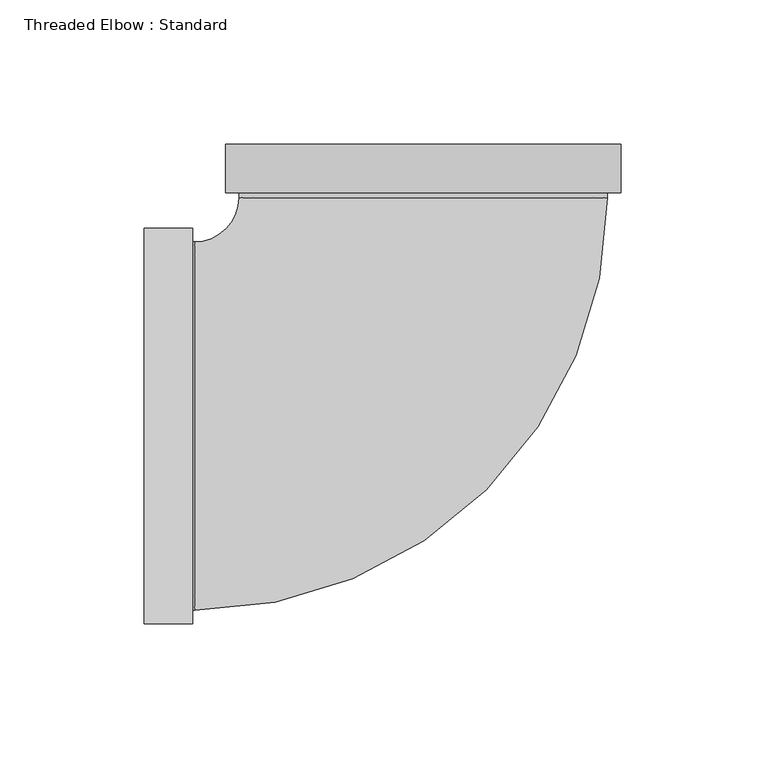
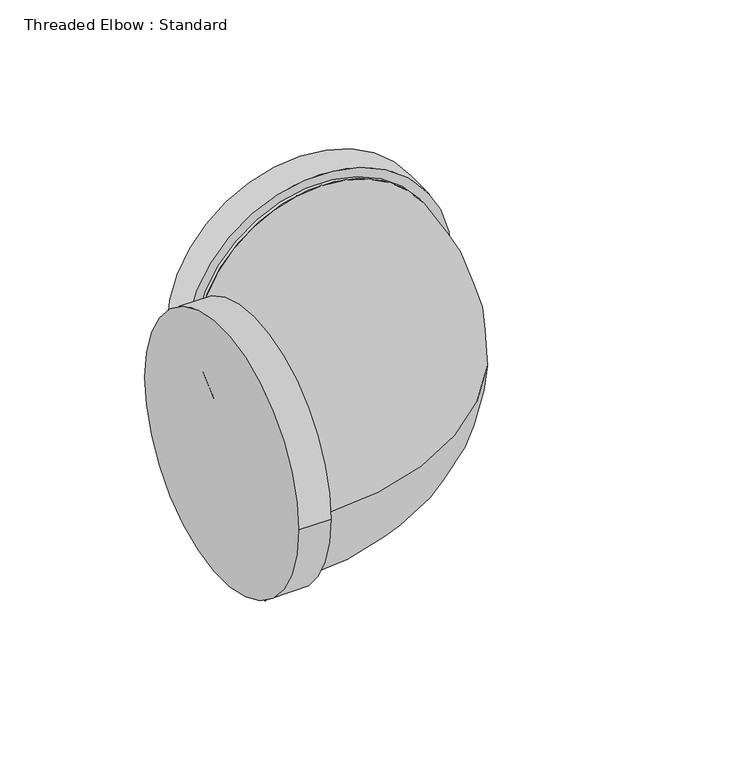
"""IFC4 building model written with IfcOpenShell, lengths in millimetres: pipe fitting geometry, Threaded Elbow : Standard."""

from ifc_helpers import new_model, si_unit, point, frame, origin, place, context, project, spatial, circle_curve, ellipse_curve, trimmed, source, transform, mapped, element, save
from ifc_brep_helpers import plane_surface, cylinder_surface, revolved_surface, advanced_brep


def threaded_elbow_standard_6d9bc947(model_context):
    return source(origin(), model_context, "Body", "AdvancedBrep", [
        advanced_brep(
        [(68.6, 81.0733437, 0.0), (-68.6, 81.0733437, 0.0), (-63.93, 81.0733437, 0.0), (63.93, 81.0733437, 0.0), (68.6, 97.8733437, 0.0), (-68.6, 97.8733437, 0.0), (63.93, 79.3151875, 0.0), (-63.93, 79.3151875, 0.0)],
        [
            (0, 1, circle_curve(frame((0.0, 81.0733437, 0.0), z_axis=(0.0, -1.0, 0.0), x_axis=(-1.0, 0.0, 0.0)), 68.6)),
            (1, 0, circle_curve(frame((0.0, 81.0733437, 0.0), z_axis=(0.0, -1.0, 0.0), x_axis=(-1.0, 0.0, 0.0)), 68.6)),
            (2, 3, circle_curve(frame((0.0, 81.0733437, 0.0), z_axis=(0.0, 1.0, 0.0), x_axis=(-1.0, 0.0, 0.0)), 63.93)),
            (3, 2, circle_curve(frame((0.0, 81.0733437, 0.0), z_axis=(0.0, 1.0, 0.0), x_axis=(-1.0, 0.0, 0.0)), 63.93)),
            (4, 5, circle_curve(frame((0.0, 97.8733437, 0.0), z_axis=(0.0, 1.0, 0.0), x_axis=(-1.0, 0.0, 0.0)), 68.6)),
            (5, 4, circle_curve(frame((0.0, 97.8733437, 0.0), z_axis=(0.0, 1.0, 0.0), x_axis=(-1.0, 0.0, 0.0)), 68.6)),
            (0, 4),
            (5, 1),
            (6, 7, circle_curve(frame((0.0, 79.3151875, 0.0), z_axis=(0.0, -1.0, 0.0), x_axis=(-1.0, 0.0, 0.0)), 63.93)),
            (7, 6, circle_curve(frame((0.0, 79.3151875, 0.0), z_axis=(0.0, -1.0, 0.0), x_axis=(-1.0, 0.0, 0.0)), 63.93)),
            (6, 3),
            (2, 7),
        ],
        [
            plane_surface(frame((0.0, 81.0733437, 0.0), z_axis=(0.0, -1.0, 0.0), x_axis=(0.0, 0.0, 1.0))),
            plane_surface(frame((0.0, 97.8733437, 0.0), z_axis=(0.0, 1.0, 0.0), x_axis=(0.0, 0.0, 1.0))),
            cylinder_surface(frame((0.0, 81.0733437, 0.0), z_axis=(0.0, -1.0, 0.0), x_axis=(-1.0, 0.0, 0.0)), 68.6),
            plane_surface(frame((0.0, 79.3151875, 0.0), z_axis=(0.0, -1.0, 0.0), x_axis=(0.0, 0.0, 1.0))),
            cylinder_surface(frame((0.0, 79.3151875, 0.0), z_axis=(0.0, -1.0, 0.0), x_axis=(-1.0, 0.0, 0.0)), 63.93),
        ],
        [
            (0, [[1, 2], [3, 4]]),
            (1, [[5, 6]]),
            (2, [[-1, 7, -6, 8]]),
            (2, [[-2, -8, -5, -7]]),
            (3, [[9, 10]]),
            (4, [[-9, 11, -3, 12]]),
            (4, [[-10, -12, -4, -11]]),
        ],
    ),
        advanced_brep(
        [(-80.1089375, 68.6, 0.0), (-80.1089375, -68.6, 0.0), (-80.1089375, -63.93, 0.0), (-80.1089375, 63.93, 0.0), (-96.9089375, 68.6, 0.0), (-96.9089375, -68.6, 0.0), (-79.3151875, 63.93, 0.0), (-79.3151875, -63.93, 0.0)],
        [
            (0, 1, circle_curve(frame((-80.1089375, 0.0, 0.0), z_axis=(1.0, 0.0, 0.0), x_axis=(0.0, -1.0, 0.0)), 68.6)),
            (1, 0, circle_curve(frame((-80.1089375, 0.0, 0.0), z_axis=(1.0, 0.0, 0.0), x_axis=(0.0, -1.0, 0.0)), 68.6)),
            (2, 3, circle_curve(frame((-80.1089375, 0.0, 0.0), z_axis=(-1.0, 0.0, 0.0), x_axis=(0.0, -1.0, 0.0)), 63.93)),
            (3, 2, circle_curve(frame((-80.1089375, 0.0, 0.0), z_axis=(-1.0, 0.0, 0.0), x_axis=(0.0, -1.0, 0.0)), 63.93)),
            (4, 5, circle_curve(frame((-96.9089375, 0.0, 0.0), z_axis=(-1.0, 0.0, 0.0), x_axis=(0.0, -1.0, 0.0)), 68.6)),
            (5, 4, circle_curve(frame((-96.9089375, 0.0, 0.0), z_axis=(-1.0, 0.0, 0.0), x_axis=(0.0, -1.0, 0.0)), 68.6)),
            (0, 4),
            (5, 1),
            (6, 7, circle_curve(frame((-79.3151875, 0.0, 0.0), z_axis=(1.0, 0.0, 0.0), x_axis=(0.0, -1.0, 0.0)), 63.93)),
            (7, 6, circle_curve(frame((-79.3151875, 0.0, 0.0), z_axis=(1.0, 0.0, 0.0), x_axis=(0.0, -1.0, 0.0)), 63.93)),
            (6, 3),
            (2, 7),
        ],
        [
            plane_surface(frame((-80.1089375, 0.0, 0.0), z_axis=(1.0, 0.0, 0.0), x_axis=(0.0, 0.0, 1.0))),
            plane_surface(frame((-96.9089375, 0.0, 0.0), z_axis=(-1.0, 0.0, 0.0), x_axis=(0.0, 0.0, 1.0))),
            cylinder_surface(frame((-80.1089375, 0.0, 0.0), z_axis=(1.0, 0.0, 0.0), x_axis=(0.0, -1.0, 0.0)), 68.6),
            plane_surface(frame((-79.3151875, 0.0, 0.0), z_axis=(1.0, 0.0, 0.0), x_axis=(0.0, 0.0, 1.0))),
            cylinder_surface(frame((-79.3151875, 0.0, 0.0), z_axis=(1.0, 0.0, 0.0), x_axis=(0.0, -1.0, 0.0)), 63.93),
        ],
        [
            (0, [[1, 2], [3, 4]]),
            (1, [[5, 6]]),
            (2, [[-1, 7, -6, 8]]),
            (2, [[-2, -8, -5, -7]]),
            (3, [[9, 10]]),
            (4, [[-9, 11, -3, 12]]),
            (4, [[-10, -12, -4, -11]]),
        ],
    ),
        advanced_brep(
        [(-68.6, 97.8733437, 0.0), (68.6, 97.8733437, 0.0), (-68.6, 81.0733437, 0.0), (68.6, 81.0733437, 0.0), (-63.93, 81.0733437, 0.0), (63.93, 81.0733437, 0.0), (63.93, 79.3151875, 0.0), (-63.93, 79.3151875, 0.0)],
        [
            (0, 1, circle_curve(frame((0.0, 97.8733437, 0.0), z_axis=(0.0, 1.0, 0.0), x_axis=(1.0, 0.0, 0.0)), 68.6)),
            (1, 0, circle_curve(frame((0.0, 97.8733437, 0.0), z_axis=(0.0, 1.0, 0.0), x_axis=(1.0, 0.0, 0.0)), 68.6)),
            (2, 3, circle_curve(frame((0.0, 81.0733437, 0.0), z_axis=(0.0, -1.0, 0.0), x_axis=(1.0, 0.0, 0.0)), 68.6)),
            (3, 2, circle_curve(frame((0.0, 81.0733437, 0.0), z_axis=(0.0, -1.0, 0.0), x_axis=(1.0, 0.0, 0.0)), 68.6)),
            (4, 5, circle_curve(frame((0.0, 81.0733437, 0.0), z_axis=(0.0, 1.0, 0.0), x_axis=(-1.0, 0.0, 0.0)), 63.93)),
            (5, 4, circle_curve(frame((0.0, 81.0733437, 0.0), z_axis=(0.0, 1.0, 0.0), x_axis=(-1.0, 0.0, 0.0)), 63.93)),
            (0, 2),
            (3, 1),
            (6, 7, circle_curve(frame((0.0, 79.3151875, 0.0), z_axis=(0.0, -1.0, 0.0), x_axis=(-1.0, 0.0, 0.0)), 63.93)),
            (7, 6, circle_curve(frame((0.0, 79.3151875, 0.0), z_axis=(0.0, -1.0, 0.0), x_axis=(-1.0, 0.0, 0.0)), 63.93)),
            (6, 5),
            (4, 7),
        ],
        [
            plane_surface(frame((0.0, 97.8733437, 0.0), z_axis=(0.0, 1.0, 0.0), x_axis=(0.0, 0.0, 1.0))),
            plane_surface(frame((0.0, 81.0733437, 0.0), z_axis=(0.0, -1.0, 0.0), x_axis=(0.0, 0.0, 1.0))),
            cylinder_surface(frame((0.0, 97.8733437, 0.0), z_axis=(0.0, 1.0, 0.0), x_axis=(1.0, 0.0, 0.0)), 68.6),
            plane_surface(frame((0.0, 79.3151875, 0.0), z_axis=(0.0, -1.0, 0.0), x_axis=(0.0, 0.0, 1.0))),
            cylinder_surface(frame((0.0, 79.3151875, 0.0), z_axis=(0.0, -1.0, 0.0), x_axis=(-1.0, 0.0, 0.0)), 63.93),
        ],
        [
            (0, [[1, 2]]),
            (1, [[3, 4], [5, 6]]),
            (2, [[-1, 7, -4, 8]]),
            (2, [[-2, -8, -3, -7]]),
            (3, [[9, 10]]),
            (4, [[-9, 11, -5, 12]]),
            (4, [[-10, -12, -6, -11]]),
        ],
    ),
        advanced_brep(
        [(-80.1089375, -68.6, 0.0), (-80.1089375, 68.6, 0.0), (-80.1089375, -63.93, 0.0), (-80.1089375, 63.93, 0.0), (-96.9089375, -68.6, 0.0), (-96.9089375, 68.6, 0.0), (-79.3151875, 63.93, 0.0), (-79.3151875, -63.93, 0.0)],
        [
            (0, 1, circle_curve(frame((-80.1089375, 0.0, 0.0), z_axis=(1.0, 0.0, 0.0), x_axis=(0.0, 1.0, 0.0)), 68.6)),
            (1, 0, circle_curve(frame((-80.1089375, 0.0, 0.0), z_axis=(1.0, 0.0, 0.0), x_axis=(0.0, 1.0, 0.0)), 68.6)),
            (2, 3, circle_curve(frame((-80.1089375, 0.0, 0.0), z_axis=(-1.0, 0.0, 0.0), x_axis=(0.0, -1.0, 0.0)), 63.93)),
            (3, 2, circle_curve(frame((-80.1089375, 0.0, 0.0), z_axis=(-1.0, 0.0, 0.0), x_axis=(0.0, -1.0, 0.0)), 63.93)),
            (4, 5, circle_curve(frame((-96.9089375, 0.0, 0.0), z_axis=(-1.0, 0.0, 0.0), x_axis=(0.0, 1.0, 0.0)), 68.6)),
            (5, 4, circle_curve(frame((-96.9089375, 0.0, 0.0), z_axis=(-1.0, 0.0, 0.0), x_axis=(0.0, 1.0, 0.0)), 68.6)),
            (0, 4),
            (5, 1),
            (6, 7, circle_curve(frame((-79.3151875, 0.0, 0.0), z_axis=(1.0, 0.0, 0.0), x_axis=(0.0, -1.0, 0.0)), 63.93)),
            (7, 6, circle_curve(frame((-79.3151875, 0.0, 0.0), z_axis=(1.0, 0.0, 0.0), x_axis=(0.0, -1.0, 0.0)), 63.93)),
            (6, 3),
            (2, 7),
        ],
        [
            plane_surface(frame((-80.1089375, 68.6, 0.0), z_axis=(1.0, 0.0, 0.0), x_axis=(0.0, 0.0, 1.0))),
            plane_surface(frame((-96.9089375, 68.6, 0.0), z_axis=(-1.0, 0.0, 0.0), x_axis=(0.0, 0.0, -1.0))),
            cylinder_surface(frame((-96.9089375, 0.0, 0.0), z_axis=(1.0, 0.0, 0.0), x_axis=(0.0, 1.0, 0.0)), 68.6),
            plane_surface(frame((-79.3151875, 0.0, 0.0), z_axis=(1.0, 0.0, 0.0), x_axis=(0.0, 0.0, 1.0))),
            cylinder_surface(frame((-79.3151875, 0.0, 0.0), z_axis=(1.0, 0.0, 0.0), x_axis=(0.0, -1.0, 0.0)), 63.93),
        ],
        [
            (0, [[1, 2], [3, 4]]),
            (1, [[5, 6]]),
            (2, [[-1, 7, -6, 8]]),
            (2, [[-2, -8, -5, -7]]),
            (3, [[9, 10]]),
            (4, [[-9, 11, -3, 12]]),
            (4, [[-10, -12, -4, -11]]),
        ],
    ),
        advanced_brep(
        [(63.93, 79.3151875, 0.0), (-63.93, 79.3151875, 0.0), (-79.3151875, -63.93, 0.0), (-79.3151875, 63.93, 0.0)],
        [
            (0, 1, circle_curve(frame((0.0, 79.3151875, 0.0), z_axis=(0.0, 1.0, 0.0), x_axis=(-1.0, 0.0, 0.0)), 63.93)),
            (1, 0, circle_curve(frame((0.0, 79.3151875, 0.0), z_axis=(0.0, 1.0, 0.0), x_axis=(-1.0, 0.0, 0.0)), 63.93)),
            (2, 3, circle_curve(frame((-79.3151875, 0.0, 0.0), z_axis=(-1.0, 0.0, 0.0), x_axis=(0.0, 1.0, 0.0)), 63.93)),
            (3, 2, circle_curve(frame((-79.3151875, 0.0, 0.0), z_axis=(-1.0, 0.0, 0.0), x_axis=(0.0, 1.0, 0.0)), 63.93)),
            (3, 1, circle_curve(frame((-79.3151875, 79.3151875, 0.0), z_axis=(0.0, 0.0, 1.0), x_axis=(1.0, 0.0, 0.0)), 15.3851875)),
            (0, 2, circle_curve(frame((-79.3151875, 79.3151875, 0.0), z_axis=(0.0, 0.0, -1.0), x_axis=(1.0, 0.0, 0.0)), 143.2451875)),
        ],
        [
            plane_surface(frame((0.0, 79.3151875, 0.0), z_axis=(0.0, 1.0, 0.0), x_axis=(0.0, 0.0, -1.0))),
            plane_surface(frame((-79.3151875, 0.0, 0.0), z_axis=(-1.0, 0.0, 0.0), x_axis=(0.0, 0.0, -1.0))),
            revolved_surface(trimmed(ellipse_curve(frame((0.0, 79.3151875, 0.0), z_axis=(0.0, -1.0, 0.0), x_axis=(-1.0, 0.0, 0.0)), 63.93, 63.93), [point((-63.93, 79.3151875, 0.0))], [point((63.93, 79.3151875, 0.0))], True, "CARTESIAN"), (-79.3151875, 79.3151875, 0.0), (0.0, 0.0, 1.0)),
            revolved_surface(trimmed(ellipse_curve(frame((0.0, 79.3151875, 0.0), z_axis=(0.0, -1.0, 0.0), x_axis=(-1.0, 0.0, 0.0)), 63.93, 63.93), [point((63.93, 79.3151875, 0.0))], [point((-63.93, 79.3151875, 0.0))], True, "CARTESIAN"), (-79.3151875, 79.3151875, 0.0), (0.0, 0.0, 1.0)),
        ],
        [
            (0, [[1, 2]]),
            (1, [[3, 4]]),
            (2, [[-4, 5, -1, 6]]),
            (3, [[-3, -6, -2, -5]]),
        ],
    ),
        advanced_brep(
        [(63.93, 79.3151875, 0.0), (-63.93, 79.3151875, 0.0), (-79.3151875, -63.93, 0.0), (-79.3151875, 63.93, 0.0)],
        [
            (0, 1, circle_curve(frame((0.0, 79.3151875, 0.0), z_axis=(0.0, 1.0, 0.0), x_axis=(-1.0, 0.0, 0.0)), 63.93)),
            (1, 0, circle_curve(frame((0.0, 79.3151875, 0.0), z_axis=(0.0, 1.0, 0.0), x_axis=(-1.0, 0.0, 0.0)), 63.93)),
            (2, 3, circle_curve(frame((-79.3151875, 0.0, 0.0), z_axis=(-1.0, 0.0, 0.0), x_axis=(0.0, 1.0, 0.0)), 63.93)),
            (3, 2, circle_curve(frame((-79.3151875, 0.0, 0.0), z_axis=(-1.0, 0.0, 0.0), x_axis=(0.0, 1.0, 0.0)), 63.93)),
            (3, 1, circle_curve(frame((-79.3151875, 79.3151875, 0.0), z_axis=(0.0, 0.0, 1.0), x_axis=(1.0, 0.0, 0.0)), 15.3851875)),
            (0, 2, circle_curve(frame((-79.3151875, 79.3151875, 0.0), z_axis=(0.0, 0.0, -1.0), x_axis=(1.0, 0.0, 0.0)), 143.2451875)),
        ],
        [
            plane_surface(frame((0.0, 79.3151875, 0.0), z_axis=(0.0, 1.0, 0.0), x_axis=(0.0, 0.0, -1.0))),
            plane_surface(frame((-79.3151875, 0.0, 0.0), z_axis=(-1.0, 0.0, 0.0), x_axis=(0.0, 0.0, -1.0))),
            revolved_surface(trimmed(ellipse_curve(frame((0.0, 79.3151875, 0.0), z_axis=(0.0, -1.0, 0.0), x_axis=(-1.0, 0.0, 0.0)), 63.93, 63.93), [point((-63.93, 79.3151875, 0.0))], [point((63.93, 79.3151875, 0.0))], True, "CARTESIAN"), (-79.3151875, 79.3151875, 0.0), (0.0, 0.0, 1.0)),
            revolved_surface(trimmed(ellipse_curve(frame((0.0, 79.3151875, 0.0), z_axis=(0.0, -1.0, 0.0), x_axis=(-1.0, 0.0, 0.0)), 63.93, 63.93), [point((63.93, 79.3151875, 0.0))], [point((-63.93, 79.3151875, 0.0))], True, "CARTESIAN"), (-79.3151875, 79.3151875, 0.0), (0.0, 0.0, 1.0)),
        ],
        [
            (0, [[1, 2]]),
            (1, [[3, 4]]),
            (2, [[-4, 5, -1, 6]]),
            (3, [[-3, -6, -2, -5]]),
        ],
    ),
    ])


if __name__ == "__main__":
    model = new_model("IFC4")
    model_context = context("Model", 3, world=origin())
    ifc_project = project(units=[si_unit("LENGTHUNIT", "METRE", prefix="MILLI")], contexts=[model_context])
    site = spatial("IfcSite", under=ifc_project)
    building = spatial("IfcBuilding", under=site)
    placement = place(None, origin())
    threaded_elbow_standard_shape = threaded_elbow_standard_6d9bc947(model_context)
    element("IfcPipeFitting", 1, ObjectType="Threaded Elbow : Standard", at=placement, inside=building, context=model_context, shape_type="MappedRepresentation", body=[
        mapped(threaded_elbow_standard_shape, transform((0.0, 0.0, 0.0), x_axis=(1.0, 0.0, 0.0), y_axis=(0.0, 1.0, 0.0), z_axis=(0.0, 0.0, 1.0))),
    ])
    save(model, "model.ifc")
